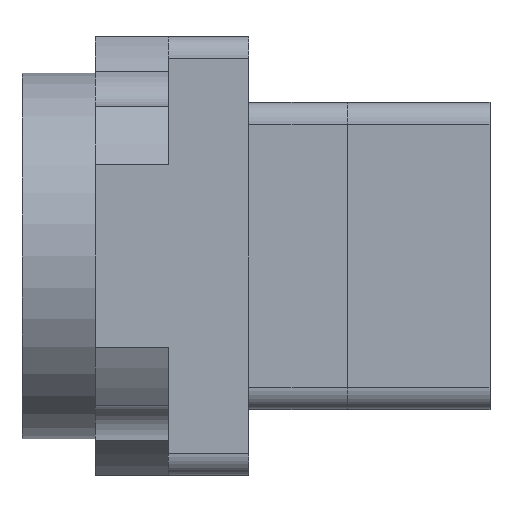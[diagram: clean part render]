
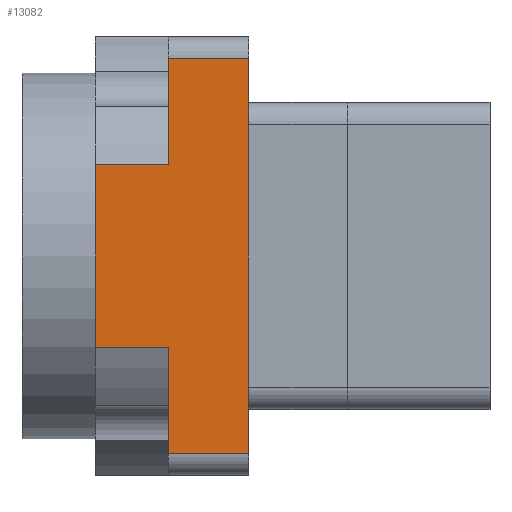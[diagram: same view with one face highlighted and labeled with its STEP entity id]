
A CAD part, left-side view. The second image highlights one B-rep face of the part: STEP entity #13082.
In plain terms, the highlighted planar face has unit normal (-1, 0, 0).
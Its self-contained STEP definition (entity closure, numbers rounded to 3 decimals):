
#446 = LINE ( 'NONE', #9253, #23200 ) ;
#571 = VERTEX_POINT ( 'NONE', #7028 ) ;
#707 = VECTOR ( 'NONE', #2178, 1000. ) ;
#930 = EDGE_LOOP ( 'NONE', ( #15195, #10101, #20528, #13187, #2641, #21273, #16931, #9148 ) ) ;
#1352 = VECTOR ( 'NONE', #5616, 1000. ) ;
#1802 = DIRECTION ( 'NONE',  ( 0., -1., 0. ) ) ;
#2141 = VERTEX_POINT ( 'NONE', #13462 ) ;
#2178 = DIRECTION ( 'NONE',  ( 0., 0., 1. ) ) ;
#2641 = ORIENTED_EDGE ( 'NONE', *, *, #5868, .F. ) ;
#2744 = VECTOR ( 'NONE', #16023, 1000. ) ;
#2759 = DIRECTION ( 'NONE',  ( 0., -1., 0. ) ) ;
#3130 = EDGE_CURVE ( 'NONE', #2141, #7267, #22900, .T. ) ;
#3820 = AXIS2_PLACEMENT_3D ( 'NONE', #14517, #7357, #19901 ) ;
#4012 = VECTOR ( 'NONE', #12730, 1000. ) ;
#4998 = VERTEX_POINT ( 'NONE', #19707 ) ;
#5509 = CARTESIAN_POINT ( 'NONE',  ( -30., 11., -27. ) ) ;
#5616 = DIRECTION ( 'NONE',  ( 0., 0., 1. ) ) ;
#5848 = CARTESIAN_POINT ( 'NONE',  ( -30., 0., -18. ) ) ;
#5868 = EDGE_CURVE ( 'NONE', #4998, #9388, #12279, .T. ) ;
#6121 = LINE ( 'NONE', #7322, #1352 ) ;
#7028 = CARTESIAN_POINT ( 'NONE',  ( -30., 21., 12.5 ) ) ;
#7267 = VERTEX_POINT ( 'NONE', #9616 ) ;
#7322 = CARTESIAN_POINT ( 'NONE',  ( -30., 21., -27. ) ) ;
#7357 = DIRECTION ( 'NONE',  ( 1., 0., 0. ) ) ;
#7583 = CARTESIAN_POINT ( 'NONE',  ( -30., 11., -27. ) ) ;
#7634 = DIRECTION ( 'NONE',  ( 0., 0., -1. ) ) ;
#8669 = EDGE_CURVE ( 'NONE', #571, #2141, #12809, .T. ) ;
#8704 = VECTOR ( 'NONE', #7634, 1000. ) ;
#8853 = CARTESIAN_POINT ( 'NONE',  ( -30., 11., -12.5 ) ) ;
#8866 = CARTESIAN_POINT ( 'NONE',  ( -30., 0., 27. ) ) ;
#8893 = EDGE_CURVE ( 'NONE', #7267, #14632, #446, .T. ) ;
#9148 = ORIENTED_EDGE ( 'NONE', *, *, #15895, .F. ) ;
#9253 = CARTESIAN_POINT ( 'NONE',  ( -30., 11., 27. ) ) ;
#9388 = VERTEX_POINT ( 'NONE', #10780 ) ;
#9616 = CARTESIAN_POINT ( 'NONE',  ( -30., 11., 27. ) ) ;
#9833 = FACE_OUTER_BOUND ( 'NONE', #930, .T. ) ;
#10101 = ORIENTED_EDGE ( 'NONE', *, *, #3130, .F. ) ;
#10144 = CARTESIAN_POINT ( 'NONE',  ( -30., 0., -27. ) ) ;
#10202 = VERTEX_POINT ( 'NONE', #10144 ) ;
#10780 = CARTESIAN_POINT ( 'NONE',  ( -30., 21., -12.5 ) ) ;
#12210 = VECTOR ( 'NONE', #2759, 1000. ) ;
#12279 = LINE ( 'NONE', #8853, #2744 ) ;
#12730 = DIRECTION ( 'NONE',  ( 0., 0., 1. ) ) ;
#12809 = LINE ( 'NONE', #17050, #12210 ) ;
#13082 = ADVANCED_FACE ( 'NONE', ( #9833 ), #19824, .F. ) ;
#13187 = ORIENTED_EDGE ( 'NONE', *, *, #22854, .F. ) ;
#13462 = CARTESIAN_POINT ( 'NONE',  ( -30., 11., 12.5 ) ) ;
#13518 = LINE ( 'NONE', #5848, #8704 ) ;
#13563 = LINE ( 'NONE', #5509, #4012 ) ;
#14517 = CARTESIAN_POINT ( 'NONE',  ( -30., 11., -27. ) ) ;
#14632 = VERTEX_POINT ( 'NONE', #8866 ) ;
#14755 = EDGE_CURVE ( 'NONE', #16130, #4998, #13563, .T. ) ;
#15058 = VECTOR ( 'NONE', #20535, 1000. ) ;
#15195 = ORIENTED_EDGE ( 'NONE', *, *, #8893, .F. ) ;
#15895 = EDGE_CURVE ( 'NONE', #14632, #10202, #13518, .T. ) ;
#16023 = DIRECTION ( 'NONE',  ( 0., 1., 0. ) ) ;
#16130 = VERTEX_POINT ( 'NONE', #22643 ) ;
#16931 = ORIENTED_EDGE ( 'NONE', *, *, #17671, .F. ) ;
#17050 = CARTESIAN_POINT ( 'NONE',  ( -30., 11., 12.5 ) ) ;
#17671 = EDGE_CURVE ( 'NONE', #10202, #16130, #19802, .T. ) ;
#18721 = CARTESIAN_POINT ( 'NONE',  ( -30., 11., -27. ) ) ;
#19707 = CARTESIAN_POINT ( 'NONE',  ( -30., 11., -12.5 ) ) ;
#19802 = LINE ( 'NONE', #18721, #15058 ) ;
#19824 = PLANE ( 'NONE',  #3820 ) ;
#19901 = DIRECTION ( 'NONE',  ( 0., 0., -1. ) ) ;
#20528 = ORIENTED_EDGE ( 'NONE', *, *, #8669, .F. ) ;
#20535 = DIRECTION ( 'NONE',  ( 0., 1., 0. ) ) ;
#21273 = ORIENTED_EDGE ( 'NONE', *, *, #14755, .F. ) ;
#22643 = CARTESIAN_POINT ( 'NONE',  ( -30., 11., -27. ) ) ;
#22854 = EDGE_CURVE ( 'NONE', #9388, #571, #6121, .T. ) ;
#22900 = LINE ( 'NONE', #7583, #707 ) ;
#23200 = VECTOR ( 'NONE', #1802, 1000. ) ;
